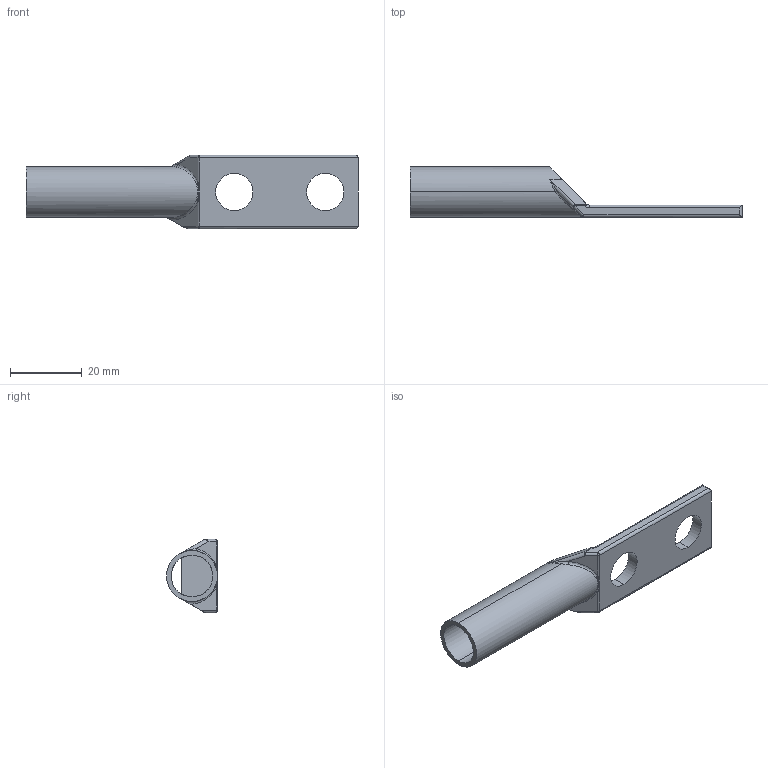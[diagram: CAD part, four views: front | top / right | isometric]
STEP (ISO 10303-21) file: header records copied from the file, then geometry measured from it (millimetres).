
FILE_DESCRIPTION (( 'STEP AP214' ), '1' );
FILE_NAME ('dgcl202.STEP', '2008-01-09T19:41:24', ( '' ), ( '' ), 'SwSTEP 2.0', 'SolidWorks 2007', '' );
FILE_SCHEMA (( 'AUTOMOTIVE_DESIGN' ));
Length unit declared in the file: inch
Products named in the file (1): dgcl202
Bounding box: 92.71 x 14.23 x 20.57 mm (x, y, z)
Volume: 5407.3 mm3; surface area: 6051.3 mm2
Topology: 1 solids, 1 shells, 52 faces, 129 edges, 76 vertices
Faces by surface type: cylinder 24, plane 14, bspline 9, sphere 3, torus 2
Entity records: 2209 total; most frequent: CARTESIAN_POINT 1073, ORIENTED_EDGE 252, DIRECTION 202, EDGE_CURVE 126, VERTEX_POINT 76, AXIS2_PLACEMENT_3D 75, EDGE_LOOP 58, ADVANCED_FACE 52
